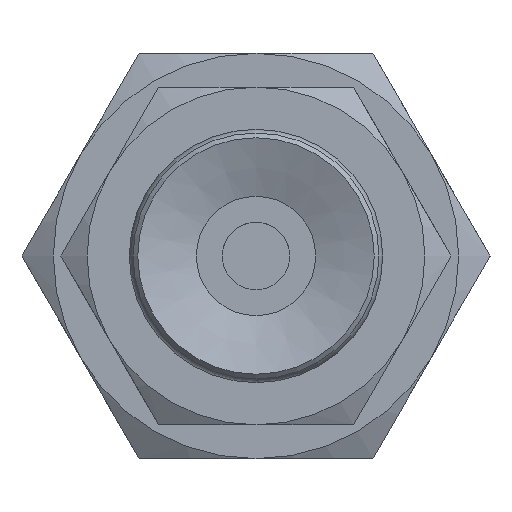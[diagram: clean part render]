
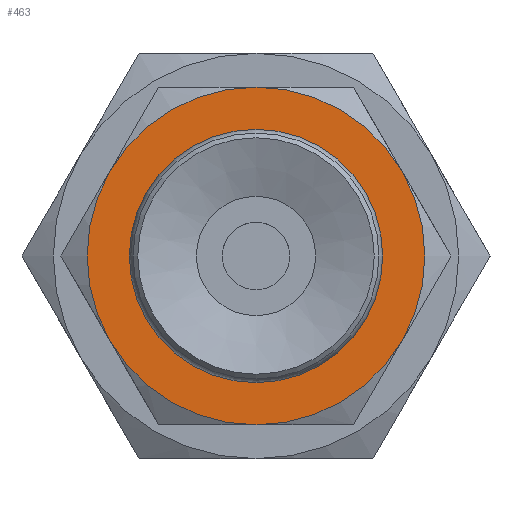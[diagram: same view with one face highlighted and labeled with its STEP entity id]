
A CAD part, front view. The second image highlights one B-rep face of the part: STEP entity #463.
In plain terms, the highlighted planar face has unit normal (0, -1, 0).
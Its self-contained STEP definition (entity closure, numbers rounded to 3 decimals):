
#463=ADVANCED_FACE('',(#673,#674),#675,.T.);
#673=FACE_BOUND('',#981,.T.);
#674=FACE_OUTER_BOUND('',#982,.T.);
#675=PLANE('',#983);
#981=EDGE_LOOP('',(#1599));
#982=EDGE_LOOP('',(#1600,#1601,#1602,#1603,#1604,#1605));
#983=AXIS2_PLACEMENT_3D('',#1606,#1607,#1608);
#1599=ORIENTED_EDGE('',*,*,#2088,.F.);
#1600=ORIENTED_EDGE('',*,*,#2089,.T.);
#1601=ORIENTED_EDGE('',*,*,#2090,.T.);
#1602=ORIENTED_EDGE('',*,*,#2031,.T.);
#1603=ORIENTED_EDGE('',*,*,#2087,.T.);
#1604=ORIENTED_EDGE('',*,*,#2033,.T.);
#1605=ORIENTED_EDGE('',*,*,#2047,.T.);
#1606=CARTESIAN_POINT('',(2.0,0.,0.0));
#1607=DIRECTION('',(0.0,-1.0,0.0));
#1608=DIRECTION('',(0.0,0.0,-1.0));
#2031=EDGE_CURVE('',#2307,#2309,#2311,.T.);
#2033=EDGE_CURVE('',#2315,#2312,#2316,.T.);
#2047=EDGE_CURVE('',#2312,#2333,#2340,.T.);
#2087=EDGE_CURVE('',#2309,#2315,#2406,.T.);
#2088=EDGE_CURVE('',#2407,#2407,#2408,.T.);
#2089=EDGE_CURVE('',#2333,#2319,#2409,.T.);
#2090=EDGE_CURVE('',#2319,#2307,#2410,.T.);
#2307=VERTEX_POINT('',#2959);
#2309=VERTEX_POINT('',#2963);
#2311=CIRCLE('',#2967,5.0);
#2312=VERTEX_POINT('',#2968);
#2315=VERTEX_POINT('',#2973);
#2316=CIRCLE('',#2974,5.0);
#2319=VERTEX_POINT('',#2979);
#2333=VERTEX_POINT('',#3005);
#2340=CIRCLE('',#3019,5.0);
#2406=CIRCLE('',#3179,5.0);
#2407=VERTEX_POINT('',#3180);
#2408=CIRCLE('',#3181,2.0);
#2409=CIRCLE('',#3182,5.0);
#2410=CIRCLE('',#3183,5.0);
#2959=CARTESIAN_POINT('',(4.33,0.,2.5));
#2963=CARTESIAN_POINT('',(0.0,0.,5.0));
#2967=AXIS2_PLACEMENT_3D('',#3435,#3436,#3437);
#2968=CARTESIAN_POINT('',(-4.33,0.,-2.5));
#2973=CARTESIAN_POINT('',(-4.33,0.,2.5));
#2974=AXIS2_PLACEMENT_3D('',#3438,#3439,#3440);
#2979=CARTESIAN_POINT('',(4.33,0.,-2.5));
#3005=CARTESIAN_POINT('',(0.0,0.,-5.0));
#3019=AXIS2_PLACEMENT_3D('',#3447,#3448,#3449);
#3179=AXIS2_PLACEMENT_3D('',#3492,#3493,#3494);
#3180=CARTESIAN_POINT('',(0.0,0.,-2.0));
#3181=AXIS2_PLACEMENT_3D('',#3495,#3496,#3497);
#3182=AXIS2_PLACEMENT_3D('',#3498,#3499,#3500);
#3183=AXIS2_PLACEMENT_3D('',#3501,#3502,#3503);
#3435=CARTESIAN_POINT('',(0.0,0.,0.0));
#3436=DIRECTION('',(0.0,-1.0,0.0));
#3437=DIRECTION('',(0.0,0.0,-1.0));
#3438=CARTESIAN_POINT('',(0.0,0.,0.0));
#3439=DIRECTION('',(0.0,-1.0,0.0));
#3440=DIRECTION('',(0.0,0.0,-1.0));
#3447=CARTESIAN_POINT('',(0.0,0.,0.0));
#3448=DIRECTION('',(0.0,-1.0,0.0));
#3449=DIRECTION('',(0.0,0.0,-1.0));
#3492=CARTESIAN_POINT('',(0.0,0.,0.0));
#3493=DIRECTION('',(0.0,-1.0,0.0));
#3494=DIRECTION('',(0.0,0.0,-1.0));
#3495=CARTESIAN_POINT('',(0.0,0.,0.0));
#3496=DIRECTION('',(0.0,-1.0,0.0));
#3497=DIRECTION('',(0.0,0.0,-1.0));
#3498=CARTESIAN_POINT('',(0.0,0.,0.0));
#3499=DIRECTION('',(0.0,-1.0,0.0));
#3500=DIRECTION('',(0.0,0.0,-1.0));
#3501=CARTESIAN_POINT('',(0.0,0.,0.0));
#3502=DIRECTION('',(0.0,-1.0,0.0));
#3503=DIRECTION('',(0.0,0.0,-1.0));
